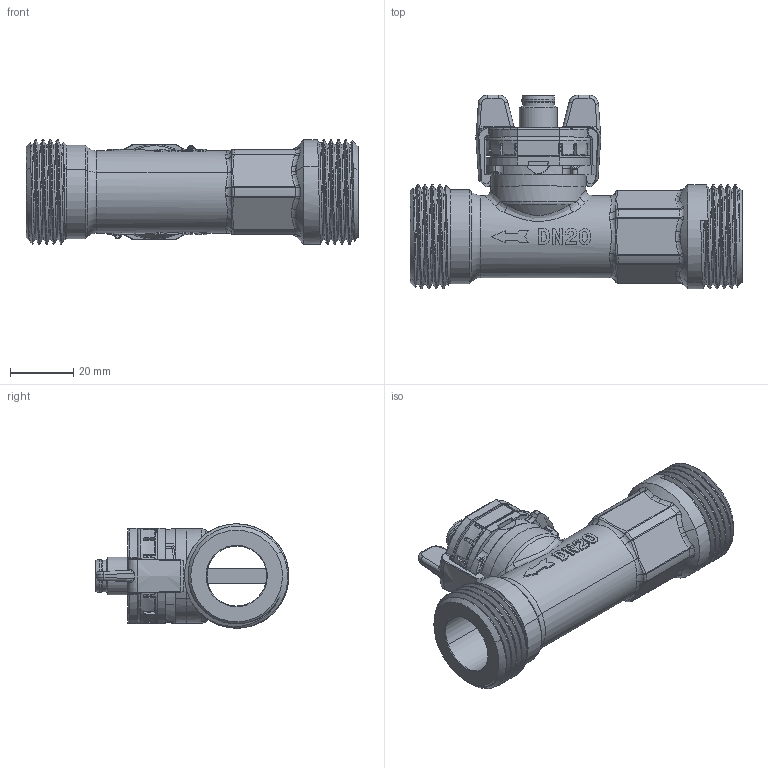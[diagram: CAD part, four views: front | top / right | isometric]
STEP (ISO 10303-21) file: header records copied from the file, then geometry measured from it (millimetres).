
FILE_DESCRIPTION(/* description */ (''),/* implementation_level */ '2;1');
FILE_NAME(/* name */ '236_x20x4xK.stp',/* time_stamp */ '2016-12-23T14:48:57+01:00',/* author */ (''),/* organization */ (''),/* preprocessor_version */ 'ST-DEVELOPER v15',/* originating_system */ 'SIEMENS PLM Software NX 9.0',/* authorisation */ '');
FILE_SCHEMA (('AUTOMOTIVE_DESIGN { 1 0 10303 214 3 1 1 1 }'));
Products named in the file (1): Z00223D0A8ACmzzq
Bounding box: 105 x 61.25 x 33 mm (x, y, z)
Volume: 56928.4 mm3; surface area: 30159.1 mm2
Topology: 5 solids, 5 shells, 1273 faces, 3381 edges, 2128 vertices
Faces by surface type: plane 491, cylinder 261, bspline 209, cone 104, torus 102, extrusion 83, sphere 22, revolution 1
Full cylindrical faces by diameter (mm): 1 x3, 5.76 x1, 6.7 x1, 7.98 x2, 8.98 x3, 9.25 x1, 10 x1, 10.4 x1, 12 x1, 15.17 x1, 15.4 x1
Entity records: 65763 total; most frequent: CARTESIAN_POINT 29836, ORIENTED_EDGE 6584, DIRECTION 4769, EDGE_CURVE 3292, VERTEX_POINT 2109, AXIS2_PLACEMENT_3D 1858, B_SPLINE_CURVE_WITH_KNOTS 1530, EDGE_LOOP 1375
